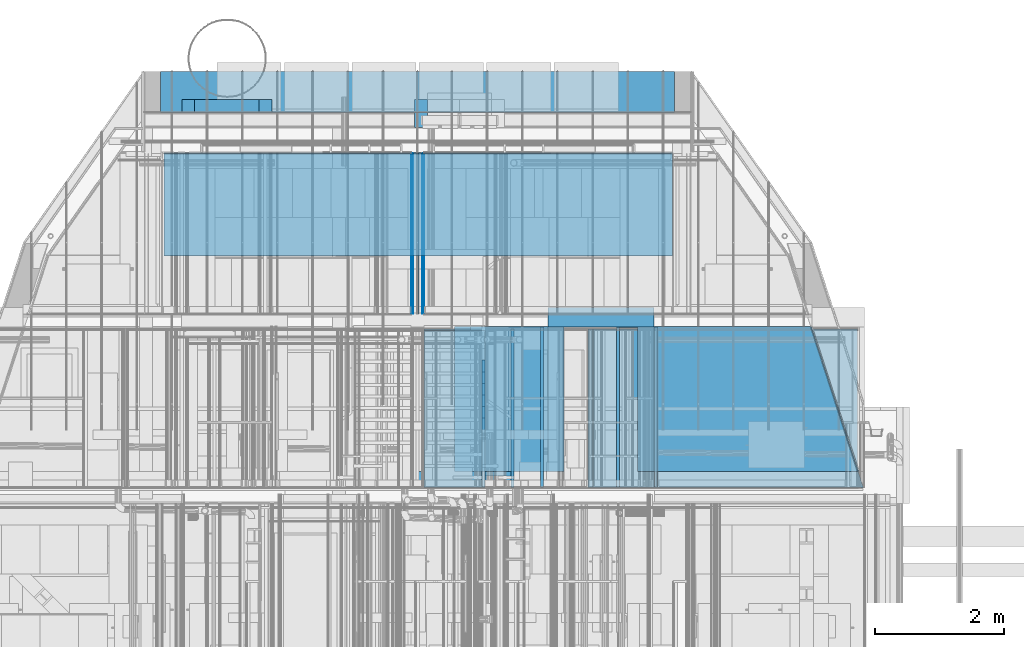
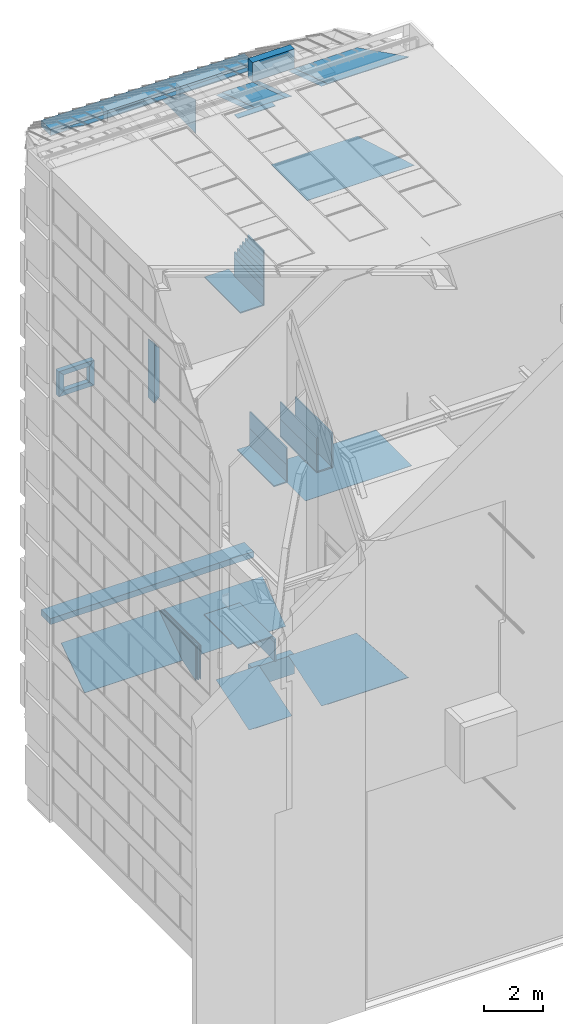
# One storey, part 25 of 583: 48 walls.
"""IFC2X3 building model written with IfcOpenShell, lengths in metres."""

from ifc_helpers import new_model, entity, si_unit, converted_unit, derived_unit, money_unit, direction, frame, frame_2d, origin_with_axes, place, context, subcontext, project, spatial, polyline, rectangle, outline, extrude, clip, halfspace, material, type_object, element, save


model = new_model("IFC2X3")

# Units and contexts
model_context = context("Model", 3, precision=1e-05, world=origin_with_axes(), true_north=direction((0.0, 1.0)))
body_context = subcontext(model_context, "Body", "Model", "MODEL_VIEW", scale=1.0)
ifc_project = project(units=[si_unit("LENGTHUNIT", "METRE"), si_unit("AREAUNIT", "SQUARE_METRE"), si_unit("VOLUMEUNIT", "CUBIC_METRE"), si_unit("ABSORBEDDOSEUNIT", "GRAY"), si_unit("AMOUNTOFSUBSTANCEUNIT", "MOLE"), si_unit("DOSEEQUIVALENTUNIT", "SIEVERT"), si_unit("ELECTRICCAPACITANCEUNIT", "FARAD"), si_unit("ELECTRICCHARGEUNIT", "COULOMB"), si_unit("ELECTRICCONDUCTANCEUNIT", "SIEMENS"), si_unit("ELECTRICCURRENTUNIT", "AMPERE"), si_unit("ELECTRICRESISTANCEUNIT", "OHM"), si_unit("ELECTRICVOLTAGEUNIT", "VOLT"), si_unit("ENERGYUNIT", "JOULE"), si_unit("FORCEUNIT", "NEWTON"), si_unit("FREQUENCYUNIT", "HERTZ"), si_unit("ILLUMINANCEUNIT", "LUX"), si_unit("INDUCTANCEUNIT", "HENRY"), si_unit("LUMINOUSFLUXUNIT", "LUMEN"), si_unit("LUMINOUSINTENSITYUNIT", "CANDELA"), si_unit("MAGNETICFLUXDENSITYUNIT", "TESLA"), si_unit("MAGNETICFLUXUNIT", "WEBER"), si_unit("MASSUNIT", "GRAM"), converted_unit("PLANEANGLEUNIT", "degree", entity("IfcReal", 0.0174532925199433), si_unit("PLANEANGLEUNIT", "RADIAN"), dimensions=[0, 0, 0, 0, 0, 0, 0]), si_unit("POWERUNIT", "WATT"), si_unit("PRESSUREUNIT", "PASCAL"), si_unit("RADIOACTIVITYUNIT", "BECQUEREL"), si_unit("SOLIDANGLEUNIT", "STERADIAN"), si_unit("THERMODYNAMICTEMPERATUREUNIT", "KELVIN"), si_unit("TIMEUNIT", "SECOND"), derived_unit("ACCELERATIONUNIT", [(si_unit("LENGTHUNIT", "METRE"), 1), (si_unit("TIMEUNIT", "SECOND"), -2)]), derived_unit("ANGULARVELOCITYUNIT", [(converted_unit("PLANEANGLEUNIT", "degree", entity("IfcReal", 0.0174532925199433), si_unit("PLANEANGLEUNIT", "RADIAN"), dimensions=[0, 0, 0, 0, 0, 0, 0]), 1), (si_unit("TIMEUNIT", "SECOND"), -1)]), derived_unit("CURVATUREUNIT", [(converted_unit("PLANEANGLEUNIT", "degree", entity("IfcReal", 0.0174532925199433), si_unit("PLANEANGLEUNIT", "RADIAN"), dimensions=[0, 0, 0, 0, 0, 0, 0]), 1), (si_unit("LENGTHUNIT", "METRE"), -1)]), derived_unit("DYNAMICVISCOSITYUNIT", [(si_unit("PRESSUREUNIT", "PASCAL"), 1), (si_unit("TIMEUNIT", "SECOND"), 1)]), derived_unit("HEATFLUXDENSITYUNIT", [(si_unit("POWERUNIT", "WATT"), 1), (si_unit("LENGTHUNIT", "METRE"), -2)]), derived_unit("HEATINGVALUEUNIT", [(si_unit("ENERGYUNIT", "JOULE"), 1), (si_unit("MASSUNIT", "GRAM"), -1)]), derived_unit("INTEGERCOUNTRATEUNIT", [(si_unit("TIMEUNIT", "SECOND"), -1)]), derived_unit("IONCONCENTRATIONUNIT", [(si_unit("MASSUNIT", "GRAM"), 1), (si_unit("VOLUMEUNIT", "CUBIC_METRE"), -1)]), derived_unit("ISOTHERMALMOISTURECAPACITYUNIT", [(si_unit("VOLUMEUNIT", "CUBIC_METRE"), 1), (si_unit("MASSUNIT", "GRAM"), -1)]), derived_unit("KINEMATICVISCOSITYUNIT", [(si_unit("AREAUNIT", "SQUARE_METRE"), 1), (si_unit("TIMEUNIT", "SECOND"), -1)]), derived_unit("LINEARFORCEUNIT", [(si_unit("FORCEUNIT", "NEWTON"), 1), (si_unit("LENGTHUNIT", "METRE"), -1)]), derived_unit("LINEARMOMENTUNIT", [(si_unit("FORCEUNIT", "NEWTON"), 1), (si_unit("LENGTHUNIT", "METRE"), -1)]), derived_unit("LINEARSTIFFNESSUNIT", [(si_unit("FORCEUNIT", "NEWTON"), 1), (si_unit("LENGTHUNIT", "METRE"), -1)]), derived_unit("LINEARVELOCITYUNIT", [(si_unit("LENGTHUNIT", "METRE"), 1), (si_unit("TIMEUNIT", "SECOND"), -1)]), derived_unit("LUMINOUSINTENSITYDISTRIBUTIONUNIT", [(si_unit("LUMINOUSINTENSITYUNIT", "CANDELA"), 1), (si_unit("LUMINOUSFLUXUNIT", "LUMEN"), -1)]), derived_unit("MASSDENSITYUNIT", [(si_unit("MASSUNIT", "GRAM"), 1), (si_unit("VOLUMEUNIT", "CUBIC_METRE"), -1)]), derived_unit("MASSFLOWRATEUNIT", [(si_unit("MASSUNIT", "GRAM"), 1), (si_unit("TIMEUNIT", "SECOND"), -1)]), derived_unit("MASSPERLENGTHUNIT", [(si_unit("MASSUNIT", "GRAM"), 1), (si_unit("LENGTHUNIT", "METRE"), -1)]), derived_unit("MODULUSOFELASTICITYUNIT", [(si_unit("FORCEUNIT", "NEWTON"), 1), (si_unit("AREAUNIT", "SQUARE_METRE"), -1)]), derived_unit("MODULUSOFLINEARSUBGRADEREACTIONUNIT", [(si_unit("FORCEUNIT", "NEWTON"), 1), (si_unit("LENGTHUNIT", "METRE"), -2)]), derived_unit("MODULUSOFROTATIONALSUBGRADEREACTIONUNIT", [(si_unit("FORCEUNIT", "NEWTON"), 1), (si_unit("LENGTHUNIT", "METRE"), 1)]), derived_unit("MODULUSOFSUBGRADEREACTIONUNIT", [(si_unit("FORCEUNIT", "NEWTON"), 1), (si_unit("VOLUMEUNIT", "CUBIC_METRE"), -1)]), derived_unit("MOISTUREDIFFUSIVITYUNIT", [(si_unit("VOLUMEUNIT", "CUBIC_METRE"), 1), (si_unit("TIMEUNIT", "SECOND"), -1)]), derived_unit("MOLECULARWEIGHTUNIT", [(si_unit("MASSUNIT", "GRAM"), 1), (si_unit("AMOUNTOFSUBSTANCEUNIT", "MOLE"), -1)]), derived_unit("PLANARFORCEUNIT", [(si_unit("FORCEUNIT", "NEWTON"), 1), (si_unit("LENGTHUNIT", "METRE"), -2)]), derived_unit("ROTATIONALFREQUENCYUNIT", [(si_unit("TIMEUNIT", "SECOND"), -1)]), derived_unit("ROTATIONALMASSUNIT", [(si_unit("MASSUNIT", "GRAM"), 1), (si_unit("LENGTHUNIT", "METRE"), 2)]), derived_unit("ROTATIONALSTIFFNESSUNIT", [(si_unit("FORCEUNIT", "NEWTON"), 1), (si_unit("LENGTHUNIT", "METRE"), 1), (converted_unit("PLANEANGLEUNIT", "degree", entity("IfcReal", 0.0174532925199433), si_unit("PLANEANGLEUNIT", "RADIAN"), dimensions=[0, 0, 0, 0, 0, 0, 0]), -1)]), derived_unit("SECTIONAREAINTEGRALUNIT", [(si_unit("LENGTHUNIT", "METRE"), 5)]), derived_unit("SECTIONMODULUSUNIT", [(si_unit("LENGTHUNIT", "METRE"), 3)]), derived_unit("SHEARMODULUSUNIT", [(si_unit("FORCEUNIT", "NEWTON"), 1), (si_unit("AREAUNIT", "SQUARE_METRE"), -1)]), derived_unit("SOUNDPOWERUNIT", [(si_unit("ENERGYUNIT", "JOULE"), 1), (si_unit("TIMEUNIT", "SECOND"), -1)]), derived_unit("SPECIFICHEATCAPACITYUNIT", [(si_unit("FORCEUNIT", "NEWTON"), 1), (si_unit("MASSUNIT", "GRAM"), -1), (si_unit("THERMODYNAMICTEMPERATUREUNIT", "KELVIN"), -1)]), derived_unit("TEMPERATUREGRADIENTUNIT", [(si_unit("THERMODYNAMICTEMPERATUREUNIT", "KELVIN"), 1), (si_unit("LENGTHUNIT", "METRE"), -1)]), derived_unit("THERMALADMITTANCEUNIT", [(si_unit("POWERUNIT", "WATT"), 1), (si_unit("AREAUNIT", "SQUARE_METRE"), -1), (si_unit("THERMODYNAMICTEMPERATUREUNIT", "KELVIN"), -1)]), derived_unit("THERMALCONDUCTANCEUNIT", [(si_unit("POWERUNIT", "WATT"), 1), (si_unit("LENGTHUNIT", "METRE"), -1), (si_unit("THERMODYNAMICTEMPERATUREUNIT", "KELVIN"), -1)]), derived_unit("THERMALEXPANSIONCOEFFICIENTUNIT", [(si_unit("THERMODYNAMICTEMPERATUREUNIT", "KELVIN"), -1)]), derived_unit("THERMALRESISTANCEUNIT", [(si_unit("AREAUNIT", "SQUARE_METRE"), 1), (si_unit("POWERUNIT", "WATT"), -1)]), derived_unit("THERMALTRANSMITTANCEUNIT", [(si_unit("POWERUNIT", "WATT"), 1), (si_unit("AREAUNIT", "SQUARE_METRE"), -1), (si_unit("THERMODYNAMICTEMPERATUREUNIT", "KELVIN"), -1)]), derived_unit("TORQUEUNIT", [(si_unit("FORCEUNIT", "NEWTON"), 1), (si_unit("LENGTHUNIT", "METRE"), 1)]), derived_unit("VAPORPERMEABILITYUNIT", [(si_unit("MASSUNIT", "GRAM"), 1), (si_unit("TIMEUNIT", "SECOND"), -1)]), derived_unit("VOLUMETRICFLOWRATEUNIT", [(si_unit("VOLUMEUNIT", "CUBIC_METRE"), 1), (si_unit("TIMEUNIT", "SECOND"), -1)]), derived_unit("WARPINGCONSTANTUNIT", [(si_unit("LENGTHUNIT", "METRE"), 6)]), derived_unit("WARPINGMOMENTUNIT", [(si_unit("FORCEUNIT", "NEWTON"), 1), (si_unit("LENGTHUNIT", "METRE"), 2)]), money_unit("GBP")], contexts=[model_context])

# Site, building, storey
site_placement = place(None, origin_with_axes())
site = spatial("IfcSite", under=ifc_project, at=site_placement, Name="Site", CompositionType="ELEMENT")
building_placement = place(site_placement, origin_with_axes())
building = spatial("IfcBuilding", under=site, at=building_placement, Name="Building01", CompositionType="ELEMENT")
storey_placement = place(building_placement, frame((0.0, 0.0, 20.78), z_axis=(0.0, 0.0, 1.0), x_axis=(1.0, 0.0, 0.0)))
storey = spatial("IfcBuildingStorey", under=building, at=storey_placement, Name="RL", CompositionType="ELEMENT", Elevation=20.78)

# Walls
ifc_material_1 = material(Name="A_BSUK_Roofs")
wall_type_1 = type_object("IfcWallType", Name="A-Walls-ExternalBlock", PredefinedType="NOTDEFINED")
for number, where, z_axis, x_axis, name in (
    (1, (11.124915, 17.78, 5.700061), (-1.0, 0.0, 0.0), (0.0, 0.0, -1.0), "7C"),
    (2, (11.124915, 17.78, -19.470096), (-1.0, 0.0, 0.0), (0.0, 0.0, -1.0), "7C"),
):
    element("IfcWall", number, at=place(storey_placement, frame(where, z_axis=z_axis, x_axis=x_axis)), inside=storey, type_object=wall_type_1, material=ifc_material_1, Name=name, ObjectType="A-Walls-ExternalBlock", context=body_context, shape_type="SweptSolid", body=[
        extrude(rectangle(XDim=0.81, YDim=0.3, at=frame_2d((0.405, 0.15), x_axis=(1.0, 0.0))), origin_with_axes(), (0.0, 0.0, 1.0), 1.65),
    ])
ifc_material_2 = material(Name="A_BSUK_WallsExternal_Block")
wall_1_placement = place(storey_placement, frame((7.599939, 20.58, -7.38), z_axis=(0.0, 1.0, 0.0), x_axis=(0.0, 0.0, -1.0)))
element("IfcWall", 3, at=wall_1_placement, inside=storey, type_object=wall_type_1, material=ifc_material_2, Name="A-Walls-ExternalBlock", ObjectType="A-Walls-ExternalBlock", context=body_context, shape_type="SweptSolid", body=[
    extrude(outline(polyline([(2.2382, 0.2), (-0.2, 0.2), (0.0, 0.0), (2.0382, 0.0), (2.2382, 0.2)])), origin_with_axes(), (0.0, 0.0, 1.0), 0.438),
])
wall_2_placement = place(storey_placement, frame((4.980368, 20.818, -8.03), z_axis=(0.0, 1.0, 0.0), x_axis=(0.0, 0.0, 1.0)))
element("IfcWall", 4, at=wall_2_placement, inside=storey, type_object=wall_type_1, material=ifc_material_2, Name="A-Walls-ExternalBlock", ObjectType="A-Walls-ExternalBlock", context=body_context, shape_type="SweptSolid", body=[
    extrude(outline(polyline([(0.85, 0.2), (-0.2, 0.2), (0.0, 0.0), (0.65, 0.0), (0.85, 0.2)])), origin_with_axes(), (0.0, 0.0, 1.0), 0.2),
])
wall_3_placement = place(storey_placement, frame((4.980368, 20.818, -7.38), z_axis=(0.0, 1.0, 0.0), x_axis=(-1.0, 0.0, 0.0)))
element("IfcWall", 5, at=wall_3_placement, inside=storey, type_object=wall_type_1, material=ifc_material_2, Name="A-Walls-ExternalBlock", ObjectType="A-Walls-ExternalBlock", context=body_context, shape_type="SweptSolid", body=[
    extrude(outline(polyline([(1.2, 0.2), (-0.2, 0.2), (0.0, 0.0), (1.0, 0.0), (1.2, 0.2)])), origin_with_axes(), (0.0, 0.0, 1.0), 0.2),
])
wall_4_placement = place(storey_placement, frame((3.980368, 20.818, -7.38), z_axis=(0.0, 1.0, 0.0), x_axis=(0.0, 0.0, -1.0)))
element("IfcWall", 6, at=wall_4_placement, inside=storey, type_object=wall_type_1, material=ifc_material_2, Name="A-Walls-ExternalBlock", ObjectType="A-Walls-ExternalBlock", context=body_context, shape_type="SweptSolid", body=[
    extrude(outline(polyline([(0.85, 0.2), (-0.2, 0.2), (0.0, 0.0), (0.65, 0.0), (0.85, 0.2)])), origin_with_axes(), (0.0, 0.0, 1.0), 0.2),
])
wall_5_placement = place(storey_placement, frame((3.980368, 20.818, -8.03), z_axis=(0.0, 1.0, 0.0), x_axis=(1.0, 0.0, 0.0)))
element("IfcWall", 7, at=wall_5_placement, inside=storey, type_object=wall_type_1, material=ifc_material_2, Name="A-Walls-ExternalBlock", ObjectType="A-Walls-ExternalBlock", context=body_context, shape_type="SweptSolid", body=[
    extrude(outline(polyline([(1.2, 0.2), (-0.2, 0.2), (0.0, 0.0), (1.0, 0.0), (1.2, 0.2)])), origin_with_axes(), (0.0, 0.0, 1.0), 0.2),
])
for number, where, z_axis, x_axis, name in (
    (8, (3.449939, 20.818, -17.33), (0.0, 1.0, 0.0), (1.0, 0.0, 0.0), "A-Walls-ExternalBlock"),
    (9, (11.449939, 20.818, 2.750061), (0.0, 1.0, 0.0), (-1.0, 0.0, 0.0), "A-Walls-ExternalBlock"),
):
    element("IfcWall", number, at=place(storey_placement, frame(where, z_axis=z_axis, x_axis=x_axis)), inside=storey, type_object=wall_type_1, material=ifc_material_1, Name=name, ObjectType="A-Walls-ExternalBlock", context=body_context, shape_type="SweptSolid", body=[
        extrude(rectangle(XDim=8.0, YDim=0.25, at=frame_2d((4.0, 0.125), x_axis=(-1.0, 0.0))), origin_with_axes(), (0.0, 0.0, 1.0), 0.637),
    ])
ifc_material_3 = material(Name="A_BSUK_WallsInternal")
wall_type_2 = type_object("IfcWallType", Name="A-Walls-Internal", PredefinedType="NOTDEFINED")
wall_6_placement = place(storey_placement, frame((9.474964, 15.23, -20.2012), z_axis=(0.0, 0.95105652, 0.30901699), x_axis=(-1.0, 0.0, 0.0)))
element("IfcWall", 10, at=wall_6_placement, inside=storey, type_object=wall_type_2, material=ifc_material_3, Name="7C", ObjectType="A-Walls-Internal", context=body_context, shape_type="SweptSolid", body=[
    extrude(rectangle(XDim=1.200049, YDim=0.015, at=frame_2d((0.600024, 0.0075), x_axis=(-1.0, 0.0))), origin_with_axes(), (0.0, 0.0, 1.0), 2.373987),
])
wall_7_placement = place(storey_placement, frame((11.124915, 15.23, -20.2012), z_axis=(0.0, 0.95105652, 0.30901699), x_axis=(1.0, 0.0, 0.0)))
element("IfcWall", 11, at=wall_7_placement, inside=storey, type_object=wall_type_2, material=ifc_material_3, Name="7C", ObjectType="A-Walls-Internal", context=body_context, shape_type="Clipping", body=[
    clip(extrude(outline(polyline([(3.196285, 0.0), (0.0, 0.0), (0.0, -0.015), (3.182019, -0.015), (3.196285, 0.0)])), origin_with_axes(), (0.0, 0.0, 1.0), 2.373987), halfspace(frame((1.598142, -1.519924, 0.493853), z_axis=(-0.70710678, 0.67249851, -0.21850801), x_axis=(-0.68915176, -0.72461704, 0.0)), True)),
])
wall_8_placement = place(storey_placement, frame((7.45, 14.98, 5.6212), z_axis=(0.0, 1.0, 0.0), x_axis=(1.0, 0.0, 0.0)))
element("IfcWall", 12, at=wall_8_placement, inside=storey, type_object=wall_type_2, material=ifc_material_3, Name="7C", ObjectType="A-Walls-Internal", context=body_context, shape_type="SweptSolid", body=[
    extrude(rectangle(XDim=1.482559, YDim=0.025, at=frame_2d((0.741279, 0.0125), x_axis=(-1.0, 0.0))), origin_with_axes(), (0.0, 0.0, 1.0), 0.25),
])
wall_9_placement = place(storey_placement, frame((11.124915, 15.23, 5.6212), z_axis=(0.0, 0.95105652, -0.30901699), x_axis=(1.0, 0.0, 0.0)))
element("IfcWall", 13, at=wall_9_placement, inside=storey, type_object=wall_type_2, material=ifc_material_3, Name="7C", ObjectType="A-Walls-Internal", context=body_context, shape_type="Clipping", body=[
    clip(extrude(outline(polyline([(3.182019, 0.015), (0.0, 0.015), (0.0, 0.0), (3.196285, 0.0), (3.182019, 0.015)])), origin_with_axes(), (0.0, 0.0, 1.0), 2.373987), halfspace(frame((1.598142, 1.519924, 0.493853), z_axis=(-0.70710678, -0.67249851, -0.21850801), x_axis=(0.68915176, -0.72461704, 0.0)), True)),
])
wall_10_placement = place(storey_placement, frame((9.474964, 15.23, 5.6212), z_axis=(0.0, 0.95105652, -0.30901699), x_axis=(-1.0, 0.0, 0.0)))
element("IfcWall", 14, at=wall_10_placement, inside=storey, type_object=wall_type_2, material=ifc_material_3, Name="7C", ObjectType="A-Walls-Internal", context=body_context, shape_type="SweptSolid", body=[
    extrude(rectangle(XDim=1.200049, YDim=0.015, at=frame_2d((0.600024, -0.0075), x_axis=(-1.0, 0.0))), origin_with_axes(), (0.0, 0.0, 1.0), 2.373987),
])
wall_11_placement = place(storey_placement, frame((7.549939, 15.16, -16.54), z_axis=(0.0, 1.0, 0.0), x_axis=(1.0, 0.0, 0.0)))
element("IfcWall", 15, at=wall_11_placement, inside=storey, type_object=wall_type_2, material=ifc_material_3, Name="A-Walls-Internal", ObjectType="A-Walls-Internal", context=body_context, shape_type="SweptSolid", body=[
    extrude(outline(polyline([(1.35, 0.05), (0.0, 0.05), (0.0, 0.0), (1.4, 0.0), (1.35, 0.05)])), origin_with_axes(), (0.0, 0.0, 1.0), 2.288),
])
wall_12_placement = place(storey_placement, frame((8.949939, 14.98, -16.54), z_axis=(0.0, 1.0, 0.0), x_axis=(0.0, 0.0, -1.0)))
element("IfcWall", 16, at=wall_12_placement, inside=storey, type_object=wall_type_2, material=ifc_material_3, Name="A-Walls-Internal", ObjectType="A-Walls-Internal", context=body_context, shape_type="SweptSolid", body=[
    extrude(outline(polyline([(0.05, 0.05), (0.0, 0.0), (0.155, 0.0), (0.155, 0.05), (0.05, 0.05)])), origin_with_axes(), (0.0, 0.0, 1.0), 2.468),
])
wall_13_placement = place(storey_placement, frame((8.949939, 14.98, -16.695), z_axis=(0.0, 1.0, 0.0), x_axis=(0.0, 0.0, -1.0)))
element("IfcWall", 17, at=wall_13_placement, inside=storey, type_object=wall_type_2, material=ifc_material_3, Name="A-Walls-Internal", ObjectType="A-Walls-Internal", context=body_context, shape_type="SweptSolid", body=[
    extrude(rectangle(XDim=0.785, YDim=0.05, at=frame_2d((0.3925, 0.025), x_axis=(1.0, 0.0))), origin_with_axes(), (0.0, 0.0, 1.0), 2.468),
])
wall_14_placement = place(storey_placement, frame((7.549915, 14.98, -2.490024), z_axis=(0.0, 1.0, 0.0), x_axis=(1.0, 0.0, 0.0)))
element("IfcWall", 18, at=wall_14_placement, inside=storey, type_object=wall_type_2, material=ifc_material_3, Name="A-Walls-Internal", ObjectType="A-Walls-Internal", context=body_context, shape_type="SweptSolid", body=[
    extrude(rectangle(XDim=0.05, YDim=0.95, at=frame_2d((0.475, 0.025), x_axis=(0.0, -1.0))), origin_with_axes(), (0.0, 0.0, 1.0), 2.443),
])
wall_15_placement = place(storey_placement, frame((8.449915, 14.98, -1.740024), z_axis=(0.0, 1.0, 0.0), x_axis=(0.0, 0.0, 1.0)))
element("IfcWall", 19, at=wall_15_placement, inside=storey, type_object=wall_type_2, material=ifc_material_3, Name="A-Walls-Internal", ObjectType="A-Walls-Internal", context=body_context, shape_type="SweptSolid", body=[
    extrude(rectangle(XDim=0.25, YDim=0.05, at=frame_2d((0.125, 0.025), x_axis=(1.0, 0.0))), origin_with_axes(), (0.0, 0.0, 1.0), 1.98),
])
wall_16_placement = place(storey_placement, frame((8.449915, 14.98, -2.490024), z_axis=(0.0, 1.0, 0.0), x_axis=(0.0, 0.0, 1.0)))
element("IfcWall", 20, at=wall_16_placement, inside=storey, type_object=wall_type_2, material=ifc_material_3, Name="A-Walls-Internal", ObjectType="A-Walls-Internal", context=body_context, shape_type="SweptSolid", body=[
    extrude(rectangle(XDim=0.05, YDim=0.75, at=frame_2d((0.375, 0.025), x_axis=(0.0, -1.0))), origin_with_axes(), (0.0, 0.0, 1.0), 1.98),
])
wall_17_placement = place(storey_placement, frame((8.449915, 14.98, -1.490024), z_axis=(0.0, 1.0, 0.0), x_axis=(0.0, 0.0, 1.0)))
element("IfcWall", 21, at=wall_17_placement, inside=storey, type_object=wall_type_2, material=ifc_material_3, Name="A-Walls-Internal", ObjectType="A-Walls-Internal", context=body_context, shape_type="SweptSolid", body=[
    extrude(rectangle(XDim=0.25, YDim=0.05, at=frame_2d((0.125, 0.025), x_axis=(1.0, 0.0))), origin_with_axes(), (0.0, 0.0, 1.0), 1.8),
])
wall_18_placement = place(storey_placement, frame((8.449915, 14.98, -1.240024), z_axis=(0.0, 1.0, 0.0), x_axis=(0.0, 0.0, 1.0)))
element("IfcWall", 22, at=wall_18_placement, inside=storey, type_object=wall_type_2, material=ifc_material_3, Name="A-Walls-Internal", ObjectType="A-Walls-Internal", context=body_context, shape_type="SweptSolid", body=[
    extrude(rectangle(XDim=0.25, YDim=0.05, at=frame_2d((0.125, 0.025), x_axis=(1.0, 0.0))), origin_with_axes(), (0.0, 0.0, 1.0), 1.62),
])
wall_19_placement = place(storey_placement, frame((8.449915, 14.98, -0.990024), z_axis=(0.0, 1.0, 0.0), x_axis=(0.0, 0.0, 1.0)))
element("IfcWall", 23, at=wall_19_placement, inside=storey, type_object=wall_type_2, material=ifc_material_3, Name="A-Walls-Internal", ObjectType="A-Walls-Internal", context=body_context, shape_type="SweptSolid", body=[
    extrude(rectangle(XDim=0.25, YDim=0.05, at=frame_2d((0.125, 0.025), x_axis=(1.0, 0.0))), origin_with_axes(), (0.0, 0.0, 1.0), 1.44),
])
wall_20_placement = place(storey_placement, frame((8.449915, 14.98, -0.740024), z_axis=(0.0, 1.0, 0.0), x_axis=(0.0, 0.0, 1.0)))
element("IfcWall", 24, at=wall_20_placement, inside=storey, type_object=wall_type_2, material=ifc_material_3, Name="A-Walls-Internal", ObjectType="A-Walls-Internal", context=body_context, shape_type="SweptSolid", body=[
    extrude(rectangle(XDim=0.25, YDim=0.05, at=frame_2d((0.125, 0.025), x_axis=(1.0, 0.0))), origin_with_axes(), (0.0, 0.0, 1.0), 1.26),
])
wall_21_placement = place(storey_placement, frame((8.449915, 14.98, -0.490024), z_axis=(0.0, 1.0, 0.0), x_axis=(0.0, 0.0, 1.0)))
element("IfcWall", 25, at=wall_21_placement, inside=storey, type_object=wall_type_2, material=ifc_material_3, Name="A-Walls-Internal", ObjectType="A-Walls-Internal", context=body_context, shape_type="SweptSolid", body=[
    extrude(rectangle(XDim=0.25, YDim=0.05, at=frame_2d((0.125, 0.025), x_axis=(1.0, 0.0))), origin_with_axes(), (0.0, 0.0, 1.0), 1.08),
])
wall_22_placement = place(storey_placement, frame((9.41, 14.98, -8.762619), z_axis=(0.0, 1.0, 0.0), x_axis=(0.0, 0.0, -1.0)))
element("IfcWall", 26, at=wall_22_placement, inside=storey, type_object=wall_type_2, material=ifc_material_3, Name="A-Walls-Internal", ObjectType="A-Walls-Internal", context=body_context, shape_type="SweptSolid", body=[
    extrude(rectangle(XDim=0.05, YDim=0.7, at=frame_2d((0.35, 0.025), x_axis=(0.0, -1.0))), origin_with_axes(), (0.0, 0.0, 1.0), 2.5),
])
wall_23_placement = place(storey_placement, frame((9.41, 14.98, -9.462619), z_axis=(0.0, 1.0, 0.0), x_axis=(0.0, 0.0, -1.0)))
element("IfcWall", 27, at=wall_23_placement, inside=storey, type_object=wall_type_2, material=ifc_material_3, Name="A-Walls-Internal", ObjectType="A-Walls-Internal", context=body_context, shape_type="SweptSolid", body=[
    extrude(rectangle(XDim=0.7, YDim=0.05, at=frame_2d((0.35, 0.025), x_axis=(-1.0, 0.0))), origin_with_axes(), (0.0, 0.0, 1.0), 2.5),
])
wall_24_placement = place(storey_placement, frame((9.41, 14.98, -10.212619), z_axis=(0.0, 1.0, 0.0), x_axis=(-1.0, 0.0, 0.0)))
element("IfcWall", 28, at=wall_24_placement, inside=storey, type_object=wall_type_2, material=ifc_material_3, Name="A-Walls-Internal", ObjectType="A-Walls-Internal", context=body_context, shape_type="SweptSolid", body=[
    extrude(rectangle(XDim=0.05, YDim=0.542367, at=frame_2d((0.271184, 0.025), x_axis=(0.0, -1.0))), origin_with_axes(), (0.0, 0.0, 1.0), 2.5),
])
wall_25_placement = place(storey_placement, frame((10.593849, 14.98, -9.462619), z_axis=(0.0, 1.0, 0.0), x_axis=(0.0, 0.0, -1.0)))
element("IfcWall", 29, at=wall_25_placement, inside=storey, type_object=wall_type_2, material=ifc_material_3, Name="A-Walls-Internal", ObjectType="A-Walls-Internal", context=body_context, shape_type="SweptSolid", body=[
    extrude(rectangle(XDim=0.7, YDim=0.05, at=frame_2d((0.35, 0.025), x_axis=(-1.0, 0.0))), origin_with_axes(), (0.0, 0.0, 1.0), 2.5),
])
wall_26_placement = place(storey_placement, frame((10.593849, 14.98, -8.762619), z_axis=(0.0, 1.0, 0.0), x_axis=(0.0, 0.0, -1.0)))
element("IfcWall", 30, at=wall_26_placement, inside=storey, type_object=wall_type_2, material=ifc_material_3, Name="A-Walls-Internal", ObjectType="A-Walls-Internal", context=body_context, shape_type="SweptSolid", body=[
    extrude(rectangle(XDim=0.05, YDim=0.7, at=frame_2d((0.35, 0.025), x_axis=(0.0, -1.0))), origin_with_axes(), (0.0, 0.0, 1.0), 2.5),
])
wall_27_placement = place(storey_placement, frame((11.183849, 14.98, -10.212619), z_axis=(0.0, 1.0, 0.0), x_axis=(-1.0, 0.0, 0.0)))
element("IfcWall", 31, at=wall_27_placement, inside=storey, type_object=wall_type_2, material=ifc_material_3, Name="A-Walls-Internal", ObjectType="A-Walls-Internal", context=body_context, shape_type="SweptSolid", body=[
    extrude(outline(polyline([(0.64, 0.05), (0.05, 0.05), (0.0, 0.0), (0.64, 0.0), (0.64, 0.05)])), origin_with_axes(), (0.0, 0.0, 1.0), 2.5),
])
wall_28_placement = place(storey_placement, frame((11.183849, 14.98, -8.762619), z_axis=(0.0, 1.0, 0.0), x_axis=(0.0, 0.0, -1.0)))
element("IfcWall", 32, at=wall_28_placement, inside=storey, type_object=wall_type_2, material=ifc_material_3, Name="A-Walls-Internal", ObjectType="A-Walls-Internal", context=body_context, shape_type="SweptSolid", body=[
    extrude(outline(polyline([(1.4, 0.05), (0.0, 0.05), (0.0, 0.0), (1.45, 0.0), (1.4, 0.05)])), origin_with_axes(), (0.0, 0.0, 1.0), 2.5),
])
wall_29_placement = place(storey_placement, frame((11.124915, 15.229557, 5.605572), z_axis=(0.0, 0.95105652, -0.30901699), x_axis=(1.0, 0.0, 0.0)))
element("IfcWall", 33, at=wall_29_placement, inside=storey, type_object=wall_type_2, material=ifc_material_3, Name="7C", ObjectType="A-Walls-Internal", context=body_context, shape_type="Clipping", body=[
    clip(extrude(outline(polyline([(3.166391, 0.015), (-0.25, 0.015), (0.0, 0.0), (3.180657, 0.0), (3.166391, 0.015)])), origin_with_axes(), (0.0, 0.0, 1.0), 2.373987), halfspace(frame((1.590328, 1.512492, 0.491439), z_axis=(-0.70710678, -0.67249851, -0.21850801), x_axis=(0.68915176, -0.72461704, 0.0)), True)),
])
wall_30_placement = place(storey_placement, frame((11.124915, 15.229557, -20.185572), z_axis=(0.0, 0.95105652, 0.30901699), x_axis=(1.0, 0.0, 0.0)))
element("IfcWall", 34, at=wall_30_placement, inside=storey, type_object=wall_type_2, material=ifc_material_3, Name="7C", ObjectType="A-Walls-Internal", context=body_context, shape_type="Clipping", body=[
    clip(extrude(outline(polyline([(3.180657, 0.0), (0.0, 0.0), (-0.25, -0.015), (3.166391, -0.015), (3.180657, 0.0)])), origin_with_axes(), (0.0, 0.0, 1.0), 2.373987), halfspace(frame((1.590328, -1.512492, 0.491439), z_axis=(-0.70710678, 0.67249851, -0.21850801), x_axis=(-0.68915176, -0.72461704, 0.0)), True)),
])
wall_31_placement = place(storey_placement, frame((9.474964, 15.229557, 5.605572), z_axis=(0.0, 0.95105652, -0.30901699), x_axis=(-1.0, 0.0, 0.0)))
element("IfcWall", 35, at=wall_31_placement, inside=storey, type_object=wall_type_2, material=ifc_material_3, Name="7C", ObjectType="A-Walls-Internal", context=body_context, shape_type="SweptSolid", body=[
    extrude(outline(polyline([(1.200049, 0.0), (0.0, 0.0), (-0.25, -0.015), (1.450049, -0.015), (1.200049, 0.0)])), origin_with_axes(), (0.0, 0.0, 1.0), 2.373987),
])
wall_32_placement = place(storey_placement, frame((9.474964, 15.229557, -20.185572), z_axis=(0.0, 0.95105652, 0.30901699), x_axis=(-1.0, 0.0, 0.0)))
element("IfcWall", 36, at=wall_32_placement, inside=storey, type_object=wall_type_2, material=ifc_material_3, Name="7C", ObjectType="A-Walls-Internal", context=body_context, shape_type="SweptSolid", body=[
    extrude(outline(polyline([(1.450049, 0.015), (-0.25, 0.015), (0.0, 0.0), (1.200049, 0.0), (1.450049, 0.015)])), origin_with_axes(), (0.0, 0.0, 1.0), 2.373987),
])
wall_33_placement = place(storey_placement, frame((3.499939, 18.588254, -19.084043), z_axis=(0.0, 0.81915311, 0.57357491), x_axis=(1.0, 0.0, 0.0)))
element("IfcWall", 37, at=wall_33_placement, inside=storey, type_object=wall_type_2, material=ifc_material_3, Name="7C", ObjectType="A-Walls-Internal", context=body_context, shape_type="SweptSolid", body=[
    extrude(rectangle(XDim=7.915923, YDim=0.015, at=frame_2d((3.957962, 0.0075), x_axis=(1.0, 0.0))), origin_with_axes(), (0.0, 0.0, 1.0), 1.943),
])
wall_34_placement = place(storey_placement, frame((3.499939, 18.579651, -19.071756), z_axis=(0.0, 0.81915311, 0.57357491), x_axis=(1.0, 0.0, 0.0)))
element("IfcWall", 38, at=wall_34_placement, inside=storey, type_object=wall_type_2, material=ifc_material_3, Name="7C", ObjectType="A-Walls-Internal", context=body_context, shape_type="SweptSolid", body=[
    extrude(rectangle(XDim=7.915923, YDim=0.015, at=frame_2d((3.957962, 0.0075), x_axis=(1.0, 0.0))), origin_with_axes(), (0.0, 0.0, 1.0), 1.943037),
])
wall_35_placement = place(storey_placement, frame((3.499939, 18.588254, 4.504043), z_axis=(0.0, 0.81915311, -0.57357491), x_axis=(-1.0, 0.0, 0.0)))
element("IfcWall", 39, at=wall_35_placement, inside=storey, type_object=wall_type_2, material=ifc_material_3, Name="7C", ObjectType="A-Walls-Internal", context=body_context, shape_type="SweptSolid", body=[
    extrude(rectangle(XDim=7.915923, YDim=0.015, at=frame_2d((-3.957962, 0.0075), x_axis=(-1.0, 0.0))), origin_with_axes(), (0.0, 0.0, 1.0), 1.943),
])
wall_36_placement = place(storey_placement, frame((3.499939, 18.579651, 4.491756), z_axis=(0.0, 0.81915311, -0.57357491), x_axis=(-1.0, 0.0, 0.0)))
element("IfcWall", 40, at=wall_36_placement, inside=storey, type_object=wall_type_2, material=ifc_material_3, Name="7C", ObjectType="A-Walls-Internal", context=body_context, shape_type="SweptSolid", body=[
    extrude(rectangle(XDim=7.915923, YDim=0.015, at=frame_2d((-3.957962, 0.0075), x_axis=(-1.0, 0.0))), origin_with_axes(), (0.0, 0.0, 1.0), 1.943037),
])
ifc_material_4 = material(Name="A_BSUK_WallInternal_Finishes_Plasterboard")
wall_type_3 = type_object("IfcWallType", Name="default", PredefinedType="NOTDEFINED")
wall_37_placement = place(storey_placement, frame((10.179939, 14.98, 1.224976), z_axis=(0.0, 1.0, 0.0), x_axis=(1.0, 0.0, 0.0)))
element("IfcWall", 41, at=wall_37_placement, inside=storey, type_object=wall_type_3, material=ifc_material_4, Name="default", ObjectType="default", context=body_context, shape_type="Clipping", body=[
    clip(extrude(rectangle(XDim=4.206719, YDim=0.015, at=frame_2d((2.103359, -0.0075), x_axis=(-1.0, 0.0))), origin_with_axes(), (0.0, 0.0, 1.0), 2.468), halfspace(frame((3.805013, 0.0, 1.236324), z_axis=(-0.95105652, 0.0, -0.30901699), x_axis=(0.0, -1.0, 0.0)), True)),
])
wall_38_placement = place(storey_placement, frame((10.114939, 14.98, -11.234976), z_axis=(0.0, 1.0, 0.0), x_axis=(1.0, 0.0, 0.0)))
element("IfcWall", 42, at=wall_38_placement, inside=storey, type_object=wall_type_3, material=ifc_material_4, Name="default", ObjectType="default", context=body_context, shape_type="SweptSolid", body=[
    extrude(outline(polyline([(4.181261, 0.0), (0.0, 0.0), (-0.015, -0.015), (4.181261, -0.015), (4.181261, 0.0)])), origin_with_axes(), (0.0, 0.0, 1.0), 2.468),
])
ifc_material_5 = material(Name="A_BSUK_Insulation")
wall_type_4 = type_object("IfcWallType", Name="A-Walls:A_BSUK_Insulation", PredefinedType="NOTDEFINED")
wall_39_placement = place(storey_placement, frame((7.475, 17.680066, -17.961396), z_axis=(-1.0, 0.0, 0.0), x_axis=(0.0, 1.0, 0.0)))
element("IfcWall", 43, at=wall_39_placement, inside=storey, type_object=wall_type_4, material=ifc_material_5, Name="A-Walls--A_BSUK_Insulation", ObjectType="A-Walls:A_BSUK_Insulation", context=body_context, shape_type="SweptSolid", body=[
    extrude(outline(polyline([(0.0, 0.0), (2.499869, 0.0), (0.908259, 1.114455), (0.0, 1.409565), (0.0, 0.0)])), origin_with_axes(), (0.0, 0.0, 1.0), 0.05),
])
wall_type_5 = type_object("IfcWallType", Name="A-Walls:A_BSUK_WallInternal_Finishes_Plasterboard", PredefinedType="NOTDEFINED")
wall_40_placement = place(storey_placement, frame((7.364939, 17.68, 4.790961), z_axis=(-1.0, 0.0, 0.0), x_axis=(0.0, 0.95105669, -0.30901647)))
element("IfcWall", 44, at=wall_40_placement, inside=storey, type_object=wall_type_5, material=ifc_material_4, Name="A-Walls--A_BSUK_WallInternal_Finishes_Plasterboard", ObjectType="A-Walls:A_BSUK_WallInternal_Finishes_Plasterboard", context=body_context, shape_type="SweptSolid", body=[
    extrude(outline(polyline([(0.0, 0.0), (0.954995, 0.0), (2.813096, 0.568076), (0.435579, 1.340576), (0.0, 0.0)])), origin_with_axes(), (0.0, 0.0, 1.0), 0.015),
])
for number, where, z_axis, x_axis, name in (
    (45, (7.365, 17.680066, -17.961396), (-1.0, 0.0, 0.0), (0.0, 1.0, 0.0), "A-Walls--A_BSUK_WallInternal_Finishes_Plasterboard"),
    (46, (7.38, 17.680066, -17.961396), (-1.0, 0.0, 0.0), (0.0, 1.0, 0.0), "A-Walls--A_BSUK_WallInternal_Finishes_Plasterboard"),
    (47, (7.535, 17.680066, -17.961396), (-1.0, 0.0, 0.0), (0.0, 1.0, 0.0), "A-Walls--A_BSUK_WallInternal_Finishes_Plasterboard"),
    (48, (7.55, 17.680066, -17.961396), (-1.0, 0.0, 0.0), (0.0, 1.0, 0.0), "A-Walls--A_BSUK_WallInternal_Finishes_Plasterboard"),
):
    element("IfcWall", number, at=place(storey_placement, frame(where, z_axis=z_axis, x_axis=x_axis)), inside=storey, type_object=wall_type_5, material=ifc_material_4, Name=name, ObjectType="A-Walls:A_BSUK_WallInternal_Finishes_Plasterboard", context=body_context, shape_type="SweptSolid", body=[
        extrude(outline(polyline([(0.0, 0.0), (2.499869, 0.0), (0.908259, 1.114455), (0.0, 1.409565), (0.0, 0.0)])), origin_with_axes(), (0.0, 0.0, 1.0), 0.015),
    ])

save(model, "model.ifc")
